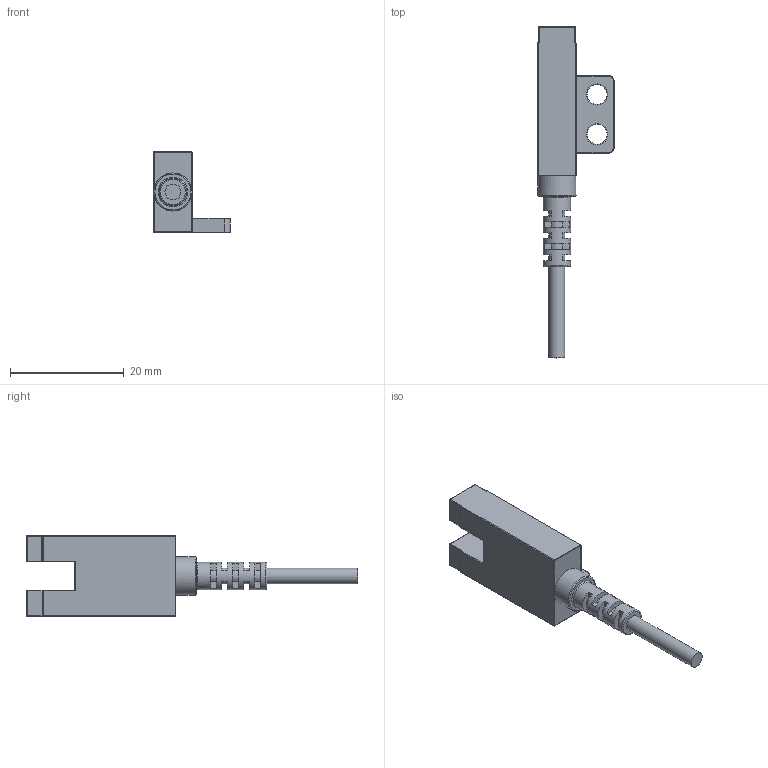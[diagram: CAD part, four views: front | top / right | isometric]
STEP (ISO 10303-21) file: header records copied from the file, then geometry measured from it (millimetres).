
FILE_DESCRIPTION(/* description */ (''),/* implementation_level */ '2;1');
FILE_NAME(/* name */ 'F:\HUAYIFENG\02)HUAYIFENG_3D_MODE\HUAYIFENG_3D_MODE_\X2\69FD578B51497535\X0\\HUAYIFENG_3D_MODE_槽型光电_LU67X\X2\7CFB5217\X0\\槽型光电_LU67系列_销售用\LU677\LU677.stp',/* time_stamp */ '2017-11-28T14:56:31+08:00',/* author */ ('fengjiarun'),/* organization */ (''),/* preprocessor_version */ 'ST-DEVELOPER v16.5',/* originating_system */ 'Autodesk Inventor 2017',/* authorisation */ '');
FILE_SCHEMA (('AUTOMOTIVE_DESIGN { 1 0 10303 214 3 1 1 }'));
Length unit declared in the file: millimetre
Products named in the file (1): 零件26
Bounding box: 13.4 x 58.3 x 14.2 mm (x, y, z)
Volume: 2753.2 mm3; surface area: 2073.5 mm2
Topology: 1 solids, 2 shells, 219 faces, 505 edges, 304 vertices
Faces by surface type: plane 91, cylinder 81, torus 27, sphere 20
Full cylindrical faces by diameter (mm): 2.8 x2, 3.5 x2, 4.7 x1, 4.8 x1, 6.7 x1
Entity records: 6066 total; most frequent: DIRECTION 1127, CARTESIAN_POINT 1001, ORIENTED_EDGE 954, EDGE_CURVE 477, AXIS2_PLACEMENT_3D 432, VERTEX_POINT 294, LINE 263, VECTOR 263
